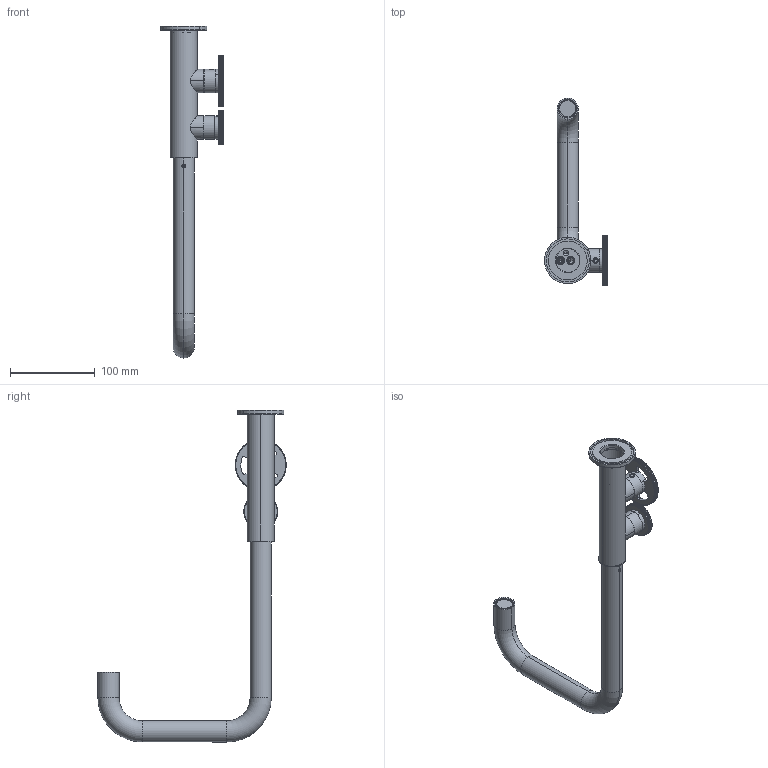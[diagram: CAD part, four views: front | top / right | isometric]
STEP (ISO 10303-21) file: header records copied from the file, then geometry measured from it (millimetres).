
FILE_DESCRIPTION (( 'STEP AP203' ), '1' );
FILE_NAME ('KT38.STEP', '2025-02-07T09:52:23', ( '' ), ( '' ), 'SwSTEP 2.0', 'SolidWorks 2024', '' );
FILE_SCHEMA (( 'CONFIG_CONTROL_DESIGN' ));
Length unit declared in the file: millimetre
Products named in the file (24): C34.00.0006; C21.1590.00.0; C11.14.0003; C24.2042.00.0; C24.1464.00.1; AS542_01; C21.1568.00.0; C24.1567.00.0; C24.2041.00.0; AERA2151INC; AS850_00; C23.0824.01; AS541_01; C24.1566.00.0; C12.00.0062; C12.00.0004; C47.00.0023.01; KT38; C24.1463.00.1; C24.1565.00.0; AS549_00; C11.14.0008; C12.00.0017; C24.1474.00.1
Assembly tree (32 placements, depth 4):
  KT38
    AS850_00
      AS549_00
        C24.1565.00.0
        C24.1566.00.0  x2
        C24.1567.00.0  x2
        C12.00.0017  x2
      C24.2041.00.0
      C12.00.0004
      AS541_01
        C24.1474.00.1
        C24.1463.00.1
      AS542_01
        C24.1474.00.1
        C24.1464.00.1
      C21.1568.00.0  x2
      C34.00.0006  x2
      C11.14.0008  x2
      C47.00.0023.01  x2
      C21.1590.00.0
      C12.00.0062  x2
    C23.0824.01
    C24.2042.00.0
    C11.14.0003
    AERA2151INC
Bounding box: 74.51 x 222.5 x 392.47 mm (x, y, z)
Volume: 233005.8 mm3; surface area: 142257.4 mm2
Topology: 28 solids, 29 shells, 2751 faces, 7959 edges, 5314 vertices
Faces by surface type: plane 1624, cylinder 883, cone 164, torus 68, bspline 12
Entity records: 70499 total; most frequent: CARTESIAN_POINT 14309, ORIENTED_EDGE 11496, DIRECTION 11094, EDGE_CURVE 5748, VERTEX_POINT 3821, AXIS2_PLACEMENT_3D 3782, VECTOR 3530, LINE 3530
